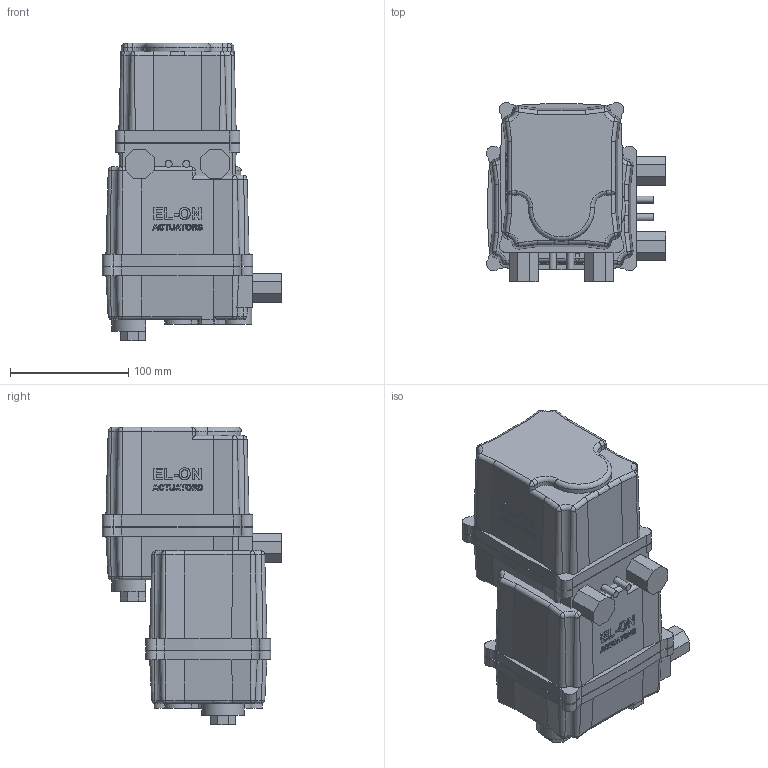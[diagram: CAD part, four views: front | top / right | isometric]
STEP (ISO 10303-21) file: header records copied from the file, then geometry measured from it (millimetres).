
FILE_DESCRIPTION( ( 'Unknown' ), '1' );
FILE_NAME( 'J:/Muud/ROOTSI BPS 3D vidinad/Kuulkraanid/Roostevaba kuulkraanid/Ball valve BPS 2420/Ball valve with electric actuator BPS/STEP formaat/BPS 2420032E ball valve DN32.stp', 'Unknown', ( 'Unknown' ), ( 'Unknown' ), 'PSStep 10.1', 'Unknown', ' ' );
FILE_SCHEMA( ( 'AUTOMOTIVE_DESIGN { 1 0 10303 214 1 1 1 1 }' ) );
Length unit declared in the file: millimetre
Products named in the file (4): Assem1; BPS 2420032 ball valve DN32; BPS 8005058 electric actuator DN40-100
Bounding box: 151.5 x 151.5 x 251.5 mm (x, y, z)
Volume: 3443575 mm3; surface area: 346451.9 mm2
Topology: 6 solids, 6 shells, 1304 faces, 3342 edges, 2178 vertices
Faces by surface type: plane 572, cylinder 312, extrusion 190, bspline 126, cone 82, torus 22
Full cylindrical faces by diameter (mm): 4.134 x16, 4.917 x8, 6 x4, 6.647 x8, 8 x24, 27 x2, 32 x2, 35 x2, 38.952 x4, 62 x2
Entity records: 33036 total; most frequent: CARTESIAN_POINT 13172, ORIENTED_EDGE 3122, DIRECTION 2534, EDGE_CURVE 1561, VERTEX_POINT 1066, VECTOR 880, AXIS2_PLACEMENT_3D 827, EDGE_LOOP 805
